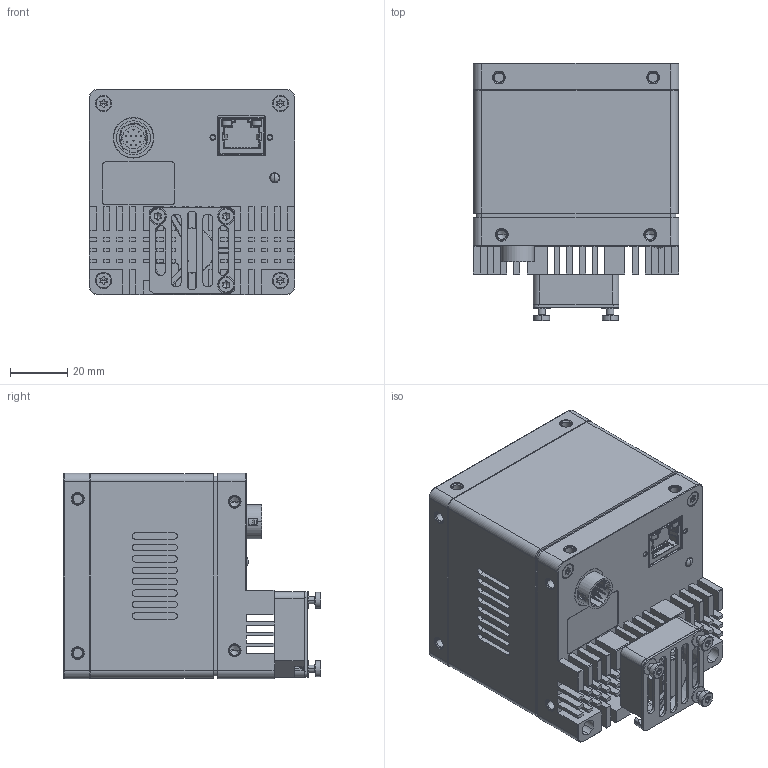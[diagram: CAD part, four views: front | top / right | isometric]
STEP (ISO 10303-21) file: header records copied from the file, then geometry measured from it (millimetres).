
FILE_DESCRIPTION((''),'2;1');
FILE_NAME('0-DH3-2582-0004_ASM_ASM','2024-01-22T19:12:11',('309376'),(''),'CREO PARAMETRIC BY PTC INC, 2020184','CREO PARAMETRIC BY PTC INC, 2020184','');
FILE_SCHEMA(('CONFIG_CONTROL_DESIGN','SHAPE_APPEARANCE_LAYERS_GROUPS'));
Products named in the file (6): DH3-1878-6041_1_1; DH3-1878-V031_ASM_1_1_ASM; DH3-1337-1000_1_1; DH3-2582-V017_ASM_1_ASM; 0-DH3-2582-0004_ASM_1_ASM; 0-DH3-2582-0004_ASM_ASM
Assembly tree (5 placements, depth 4):
  0-DH3-2582-0004_ASM_ASM
    0-DH3-2582-0004_ASM_1_ASM
      DH3-1878-V031_ASM_1_1_ASM
        DH3-1878-6041_1_1
      DH3-2582-V017_ASM_1_ASM
        DH3-1337-1000_1_1
Bounding box: 72 x 90.28 x 72 mm (x, y, z)
Volume: 315380.3 mm3; surface area: 69801.6 mm2
Topology: 5 solids, 101 shells, 2674 faces, 7232 edges, 4670 vertices
Faces by surface type: plane 1339, cylinder 942, cone 251, bspline 86, torus 50, sphere 6
Entity records: 116152 total; most frequent: CARTESIAN_POINT 24755, DIRECTION 14358, ORIENTED_EDGE 13918, PRESENTATION_STYLE_ASSIGNMENT 7396, STYLED_ITEM 7186, CURVE_STYLE 7117, EDGE_CURVE 7117, AXIS2_PLACEMENT_3D 5174
